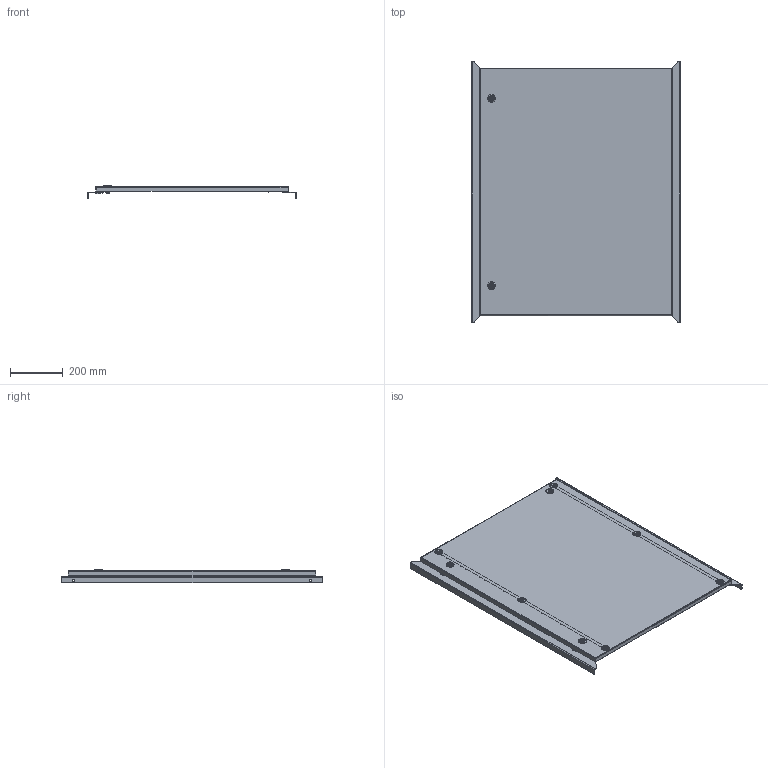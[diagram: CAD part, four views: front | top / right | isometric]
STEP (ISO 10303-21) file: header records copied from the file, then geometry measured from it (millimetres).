
FILE_DESCRIPTION (( 'STEP AP214' ), '1' );
FILE_NAME ('DVC 100.80.STEP', '2024-01-12T15:10:59', ( '' ), ( '' ), 'SwSTEP 2.0', 'SolidWorks 2019', '' );
FILE_SCHEMA (( 'AUTOMOTIVE_DESIGN' ));
Length unit declared in the file: millimetre
Products named in the file (1): DVC 100.80
Bounding box: 793 x 990 x 52.85 mm (x, y, z)
Volume: 1513172 mm3; surface area: 2031578.1 mm2
Topology: 37 solids, 37 shells, 1731 faces, 4350 edges, 2729 vertices
Faces by surface type: cylinder 754, plane 623, cone 188, bspline 102, torus 52, sphere 12
Entity records: 105782 total; most frequent: CARTESIAN_POINT 45912, ORIENTED_EDGE 8672, DIRECTION 8166, EDGE_CURVE 4336, AXIS2_PLACEMENT_3D 3105, VERTEX_POINT 2729, EDGE_LOOP 1989, VECTOR 1956
